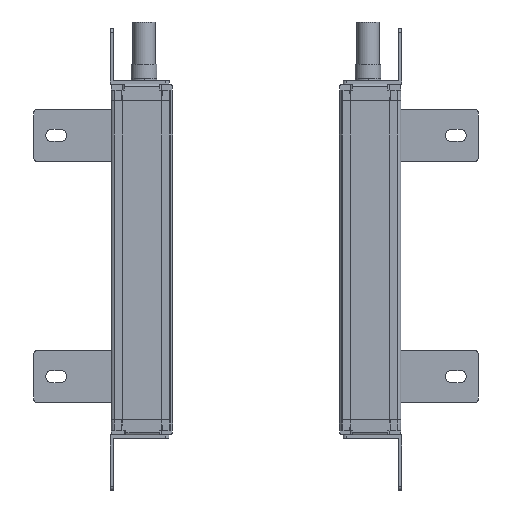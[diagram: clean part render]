
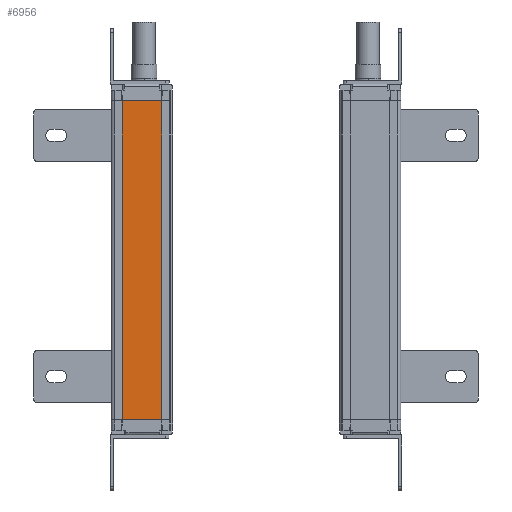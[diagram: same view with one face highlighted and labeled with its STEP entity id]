
A CAD part, left-side view. The second image highlights one B-rep face of the part: STEP entity #6956.
In plain terms, the highlighted planar face has unit normal (-1, 0, 0).
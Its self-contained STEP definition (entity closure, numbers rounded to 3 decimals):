
#953=FACE_OUTER_BOUND('',#9034,.T.);
#2188=LINE('',#33710,#4326);
#2290=LINE('',#34050,#4428);
#2291=LINE('',#34052,#4429);
#2292=LINE('',#34054,#4430);
#4326=VECTOR('',#26897,1.);
#4428=VECTOR('',#27185,1.);
#4429=VECTOR('',#27188,1.);
#4430=VECTOR('',#27189,1.);
#6178=PLANE('',#23723);
#6956=ADVANCED_FACE('',(#953),#6178,.T.);
#9034=EDGE_LOOP('',(#11681,#11682,#11683,#11684));
#11681=ORIENTED_EDGE('',*,*,#19828,.F.);
#11682=ORIENTED_EDGE('',*,*,#19829,.T.);
#11683=ORIENTED_EDGE('',*,*,#19830,.T.);
#11684=ORIENTED_EDGE('',*,*,#19658,.F.);
#17203=VERTEX_POINT('',#33709);
#17204=VERTEX_POINT('',#33711);
#17348=VERTEX_POINT('',#34049);
#17349=VERTEX_POINT('',#34053);
#19658=EDGE_CURVE('',#17203,#17204,#2188,.T.);
#19828=EDGE_CURVE('',#17348,#17203,#2290,.T.);
#19829=EDGE_CURVE('',#17348,#17349,#2291,.T.);
#19830=EDGE_CURVE('',#17349,#17204,#2292,.T.);
#23723=AXIS2_PLACEMENT_3D('',#34055,#27190,#27191);
#26897=DIRECTION('',(0.,-1.,0.));
#27185=DIRECTION('',(0.,0.,1.));
#27188=DIRECTION('',(0.,-1.,0.));
#27189=DIRECTION('',(0.,0.,1.));
#27190=DIRECTION('',(-1.,0.,0.));
#27191=DIRECTION('',(0.,1.,0.));
#33709=CARTESIAN_POINT('',(233.846,104.141,31.645));
#33710=CARTESIAN_POINT('',(233.846,81.141,31.645));
#33711=CARTESIAN_POINT('',(233.846,81.141,31.645));
#34049=CARTESIAN_POINT('',(233.846,104.141,-153.355));
#34050=CARTESIAN_POINT('',(233.846,104.141,-155.355));
#34052=CARTESIAN_POINT('',(233.846,81.141,-153.355));
#34053=CARTESIAN_POINT('',(233.846,81.141,-153.355));
#34054=CARTESIAN_POINT('',(233.846,81.141,-155.355));
#34055=CARTESIAN_POINT('',(233.846,81.141,-50.355));
